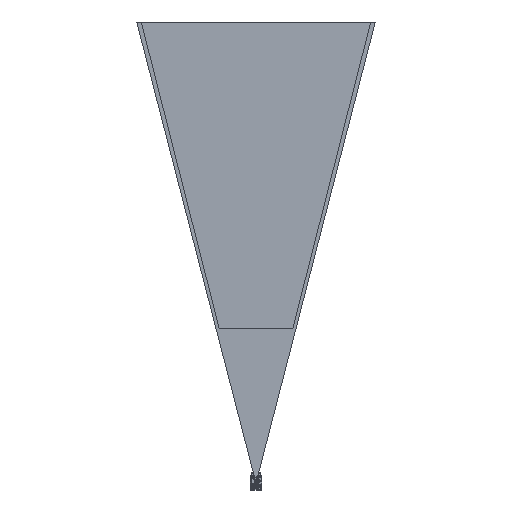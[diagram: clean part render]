
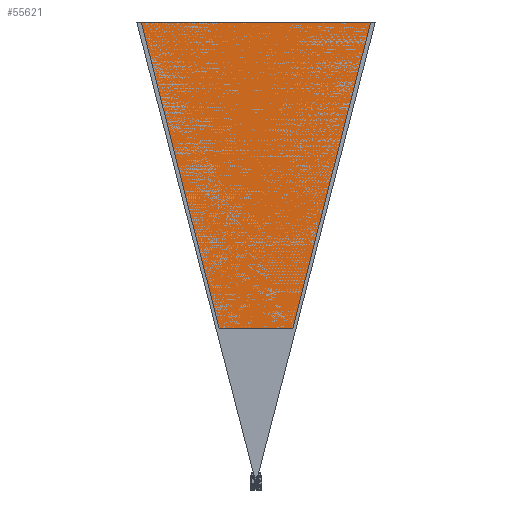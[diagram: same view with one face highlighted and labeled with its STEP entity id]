
A CAD part, front view. The second image highlights one B-rep face of the part: STEP entity #55621.
In plain terms, the highlighted planar face has unit normal (0, -1, 0).
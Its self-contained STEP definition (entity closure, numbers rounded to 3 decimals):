
#706 = FACE_OUTER_BOUND ( 'NONE', #45596, .T. ) ;
#5754 = CARTESIAN_POINT ( 'NONE',  ( 162., 0., 650. ) ) ;
#6237 = VERTEX_POINT ( 'NONE', #66873 ) ;
#6749 = CARTESIAN_POINT ( 'NONE',  ( 505., 0., 2000. ) ) ;
#8617 = VERTEX_POINT ( 'NONE', #40723 ) ;
#9156 = EDGE_CURVE ( 'NONE', #8617, #12647, #52159, .T. ) ;
#12647 = VERTEX_POINT ( 'NONE', #32779 ) ;
#14469 = DIRECTION ( 'NONE',  ( 0., -1., 0. ) ) ;
#14576 = ORIENTED_EDGE ( 'NONE', *, *, #51620, .F. ) ;
#15633 = LINE ( 'NONE', #59974, #37574 ) ;
#18239 = VECTOR ( 'NONE', #43412, 1000. ) ;
#25998 = AXIS2_PLACEMENT_3D ( 'NONE', #57585, #14469, #68593 ) ;
#27410 = ORIENTED_EDGE ( 'NONE', *, *, #68988, .F. ) ;
#32779 = CARTESIAN_POINT ( 'NONE',  ( -162., 0., 650. ) ) ;
#36445 = VERTEX_POINT ( 'NONE', #6749 ) ;
#37574 = VECTOR ( 'NONE', #44015, 1000. ) ;
#37691 = CARTESIAN_POINT ( 'NONE',  ( -505., 0., 2000. ) ) ;
#40672 = ORIENTED_EDGE ( 'NONE', *, *, #63829, .F. ) ;
#40723 = CARTESIAN_POINT ( 'NONE',  ( 162., 0., 650. ) ) ;
#43412 = DIRECTION ( 'NONE',  ( -0.246, 0., -0.969 ) ) ;
#44015 = DIRECTION ( 'NONE',  ( -0.246, 0., 0.969 ) ) ;
#45596 = EDGE_LOOP ( 'NONE', ( #27410, #54853, #14576, #40672 ) ) ;
#45770 = LINE ( 'NONE', #37691, #65896 ) ;
#46556 = PLANE ( 'NONE',  #25998 ) ;
#47060 = VECTOR ( 'NONE', #63160, 1000. ) ;
#51620 = EDGE_CURVE ( 'NONE', #36445, #8617, #61166, .T. ) ;
#52159 = LINE ( 'NONE', #63845, #47060 ) ;
#54853 = ORIENTED_EDGE ( 'NONE', *, *, #9156, .F. ) ;
#55621 = ADVANCED_FACE ( 'NONE', ( #706 ), #46556, .T. ) ;
#57585 = CARTESIAN_POINT ( 'NONE',  ( 0., 0., 0. ) ) ;
#59974 = CARTESIAN_POINT ( 'NONE',  ( -505., 0., 2000. ) ) ;
#61166 = LINE ( 'NONE', #5754, #18239 ) ;
#63160 = DIRECTION ( 'NONE',  ( -1., 0., 0. ) ) ;
#63829 = EDGE_CURVE ( 'NONE', #6237, #36445, #45770, .T. ) ;
#63845 = CARTESIAN_POINT ( 'NONE',  ( -162., 0., 650. ) ) ;
#65618 = DIRECTION ( 'NONE',  ( 1., 0., 0. ) ) ;
#65896 = VECTOR ( 'NONE', #65618, 1000. ) ;
#66873 = CARTESIAN_POINT ( 'NONE',  ( -505., 0., 2000. ) ) ;
#68593 = DIRECTION ( 'NONE',  ( 0., 0., -1. ) ) ;
#68988 = EDGE_CURVE ( 'NONE', #12647, #6237, #15633, .T. ) ;
